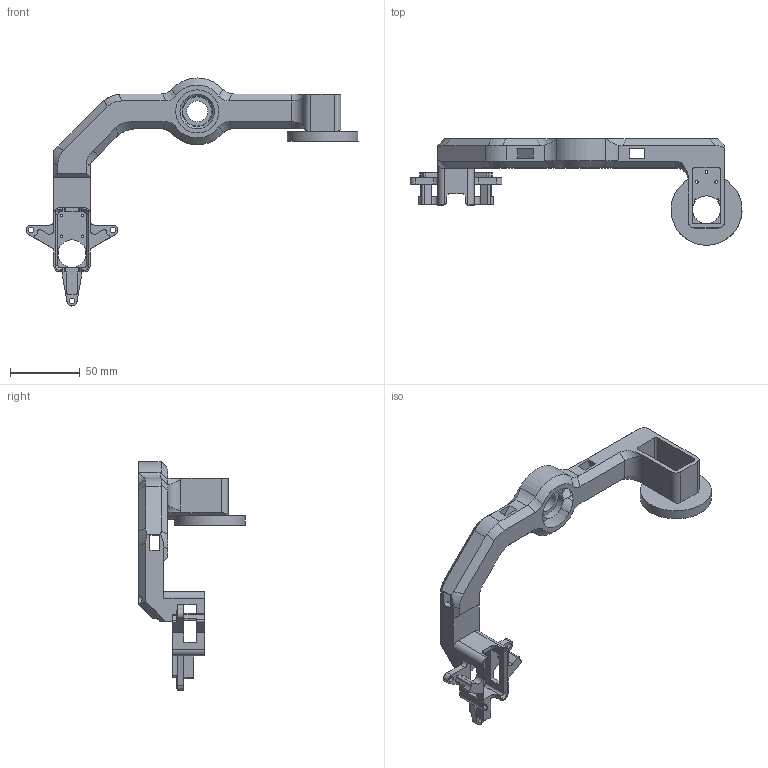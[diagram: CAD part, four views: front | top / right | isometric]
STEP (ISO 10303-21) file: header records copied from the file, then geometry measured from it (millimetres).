
FILE_DESCRIPTION(/* description */ (''),/* implementation_level */ '2;1');
FILE_NAME(/* name */ '3DP_Front_Right x1.step',/* time_stamp */ '2025-11-20T01:03:27+08:00',/* author */ (''),/* organization */ (''),/* preprocessor_version */ 'ST-DEVELOPER v20.1',/* originating_system */ 'Autodesk Translation Framework v14.21.0.0',/* authorisation */ '');
FILE_SCHEMA (('AUTOMOTIVE_DESIGN { 1 0 10303 214 3 1 1 }'));
Length unit declared in the file: millimetre
Products named in the file (1): 3DP_Front_Right x1
Bounding box: 238.53 x 76.5 x 163.89 mm (x, y, z)
Volume: 147014.3 mm3; surface area: 53831.3 mm2
Topology: 1 solids, 1 shells, 302 faces, 893 edges, 583 vertices
Faces by surface type: plane 159, cylinder 113, cone 21, bspline 9
Full cylindrical faces by diameter (mm): 1.98 x1, 2 x6, 4 x3, 6 x2, 15 x1, 20 x1, 21 x1, 24.9 x1, 42.1 x1
Entity records: 10599 total; most frequent: CARTESIAN_POINT 2264, ORIENTED_EDGE 1786, DIRECTION 1720, EDGE_CURVE 893, AXIS2_PLACEMENT_3D 588, VERTEX_POINT 583, LINE 544, VECTOR 544
